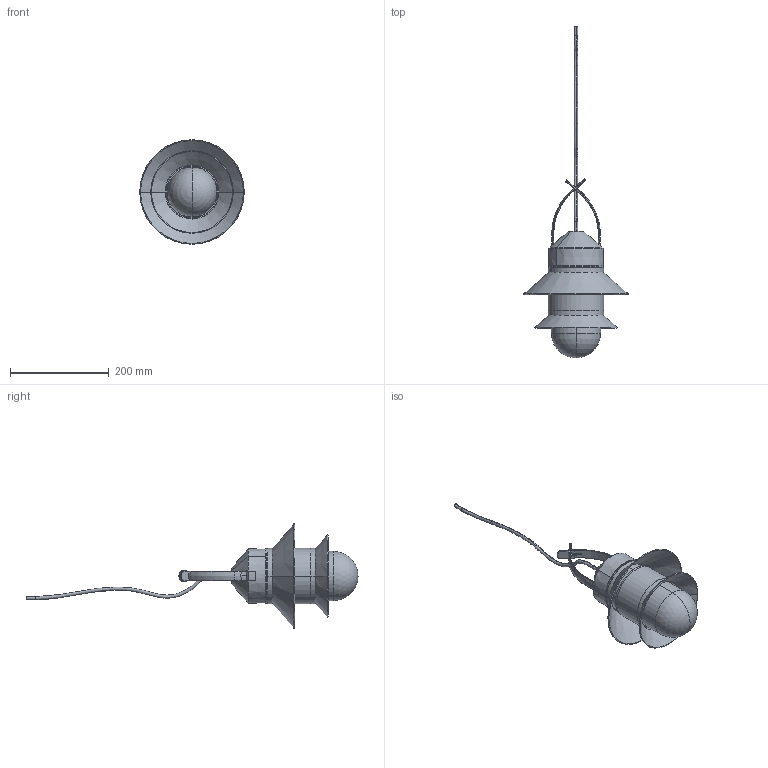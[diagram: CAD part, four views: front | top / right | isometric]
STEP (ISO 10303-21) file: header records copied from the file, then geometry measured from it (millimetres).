
FILE_DESCRIPTION((''),'2;1');
FILE_NAME('SANTORINI_ASM','2014-07-18T',('oftec'),(''),'PRO/ENGINEER BY PARAMETRIC TECHNOLOGY CORPORATION, 2012130','PRO/ENGINEER BY PARAMETRIC TECHNOLOGY CORPORATION, 2012130','');
FILE_SCHEMA(('CONFIG_CONTROL_DESIGN'));
Length unit declared in the file: millimetre
Products named in the file (10): 654-001; 654-011; 654-031; 654-032; 654-033; 654-005; 654-008; 654-007; CABLE_SANTORINI; SANTORINI_ASM
Assembly tree (10 placements, depth 2):
  SANTORINI_ASM
    654-001
    654-011
    654-031
    654-032
    654-033  x2
    654-005
    654-008
    654-007
    CABLE_SANTORINI
Bounding box: 211.84 x 673.47 x 211.84 mm (x, y, z)
Volume: 464426.3 mm3; surface area: 374072.2 mm2
Topology: 10 solids, 10 shells, 473 faces, 1111 edges, 663 vertices
Faces by surface type: bspline 187, plane 118, cylinder 80, torus 44, cone 32, sphere 12
Entity records: 18460 total; most frequent: CARTESIAN_POINT 9649, ORIENTED_EDGE 1996, DIRECTION 1400, EDGE_CURVE 998, VERTEX_POINT 595, AXIS2_PLACEMENT_3D 530, EDGE_LOOP 455, FACE_OUTER_BOUND 430
